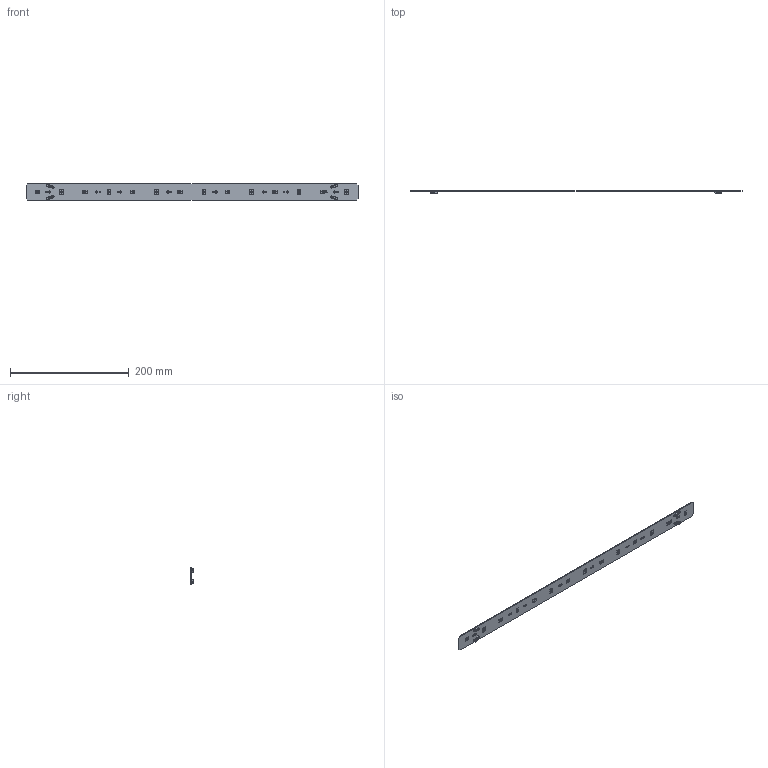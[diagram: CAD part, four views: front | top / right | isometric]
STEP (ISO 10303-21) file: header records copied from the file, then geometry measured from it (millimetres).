
FILE_DESCRIPTION(/* description */ ('Unknown'),/* implementation_level */ '2;1');
FILE_NAME(/* name */ 'LinLED 560x28mm 1100lm 4C DAISY 7x1 sh-000 2021-07-15',/* time_stamp */ '2021-07-15T10:44:04+02:00',/* author */ ('Unknown'),/* organization */ ('Unknown'),/* preprocessor_version */ 'ST-DEVELOPER v16.7',/* originating_system */ 'Solid Edge',/* authorisation */ 'Unknown');
FILE_SCHEMA (('AUTOMOTIVE_DESIGN {1 0 10303 214 3 1 1}'));
Products named in the file (1): LinLED 560x28mm 1100lm 4C DAISY 7x1 sh-000 2021-07-15
Bounding box: 559 x 4.5 x 28 mm (x, y, z)
Volume: 16338.7 mm3; surface area: 33664.1 mm2
Topology: 2 solids, 2 shells, 1908 faces, 4955 edges, 3166 vertices
Faces by surface type: plane 1309, cylinder 277, bspline 210, cone 60, sphere 32, torus 20
Full cylindrical faces by diameter (mm): 1.5 x1, 2 x4, 3.4 x4
Entity records: 74843 total; most frequent: CARTESIAN_POINT 18607, ORIENTED_EDGE 9796, DIRECTION 8046, EDGE_CURVE 4898, LINE 3628, VECTOR 3628, VERTEX_POINT 3154, AXIS2_PLACEMENT_3D 2209
